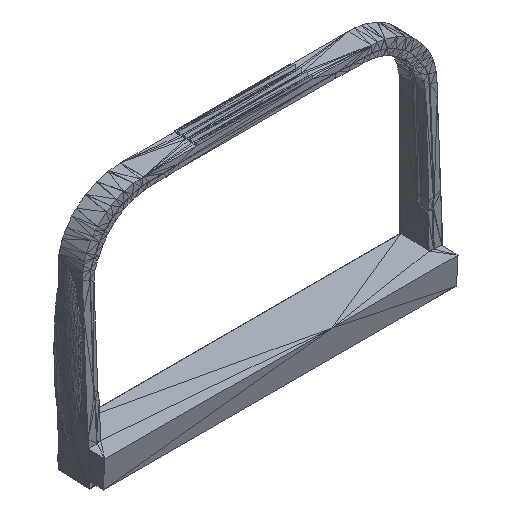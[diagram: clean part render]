
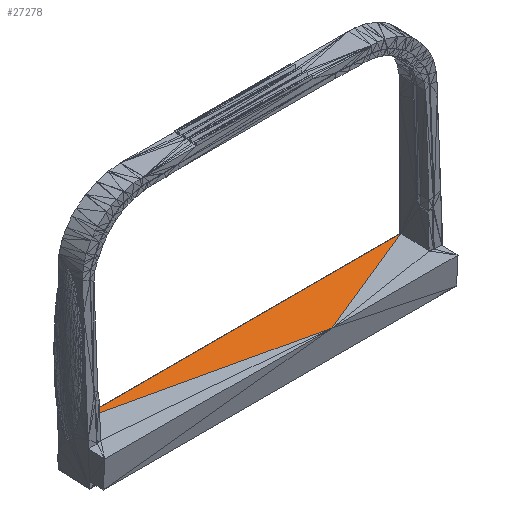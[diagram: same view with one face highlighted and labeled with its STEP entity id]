
A CAD part, isometric view. The second image highlights one B-rep face of the part: STEP entity #27278.
In plain terms, the highlighted planar face has unit normal (0, -0.046, 0.999).
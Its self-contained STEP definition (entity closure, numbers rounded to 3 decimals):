
#6755 = VERTEX_POINT('',#6756);
#6756 = CARTESIAN_POINT('',(57.701,39.981,
    44.377));
#7902 = VERTEX_POINT('',#7903);
#7903 = CARTESIAN_POINT('',(67.733,43.983,
    44.56));
#11351 = VERTEX_POINT('',#11352);
#11352 = CARTESIAN_POINT('',(38.894,43.983,
    44.56));
#22746 = EDGE_CURVE('',#7902,#6755,#22747,.T.);
#22747 = LINE('',#22748,#22749);
#22748 = CARTESIAN_POINT('',(67.733,43.983,
    44.56));
#22749 = VECTOR('',#22750,1.);
#22750 = DIRECTION('',(-0.929,-0.37,
    -0.017));
#26706 = EDGE_CURVE('',#6755,#11351,#26707,.T.);
#26707 = LINE('',#26708,#26709);
#26708 = CARTESIAN_POINT('',(57.701,39.981,
    44.377));
#26709 = VECTOR('',#26710,1.);
#26710 = DIRECTION('',(-0.978,0.208,0.01
    ));
#27278 = ADVANCED_FACE('',(#27279),#27289,.T.);
#27279 = FACE_BOUND('',#27280,.T.);
#27280 = EDGE_LOOP('',(#27281,#27282,#27283));
#27281 = ORIENTED_EDGE('',*,*,#26706,.F.);
#27282 = ORIENTED_EDGE('',*,*,#22746,.F.);
#27283 = ORIENTED_EDGE('',*,*,#27284,.T.);
#27284 = EDGE_CURVE('',#7902,#11351,#27285,.T.);
#27285 = LINE('',#27286,#27287);
#27286 = CARTESIAN_POINT('',(67.733,43.983,
    44.56));
#27287 = VECTOR('',#27288,1.);
#27288 = DIRECTION('',(-1.,0.,0.));
#27289 = PLANE('',#27290);
#27290 = AXIS2_PLACEMENT_3D('',#27291,#27292,#27293);
#27291 = CARTESIAN_POINT('',(53.401,42.962,
    44.513));
#27292 = DIRECTION('',(0.,-0.046,0.999));
#27293 = DIRECTION('',(0.,0.999,0.046));
